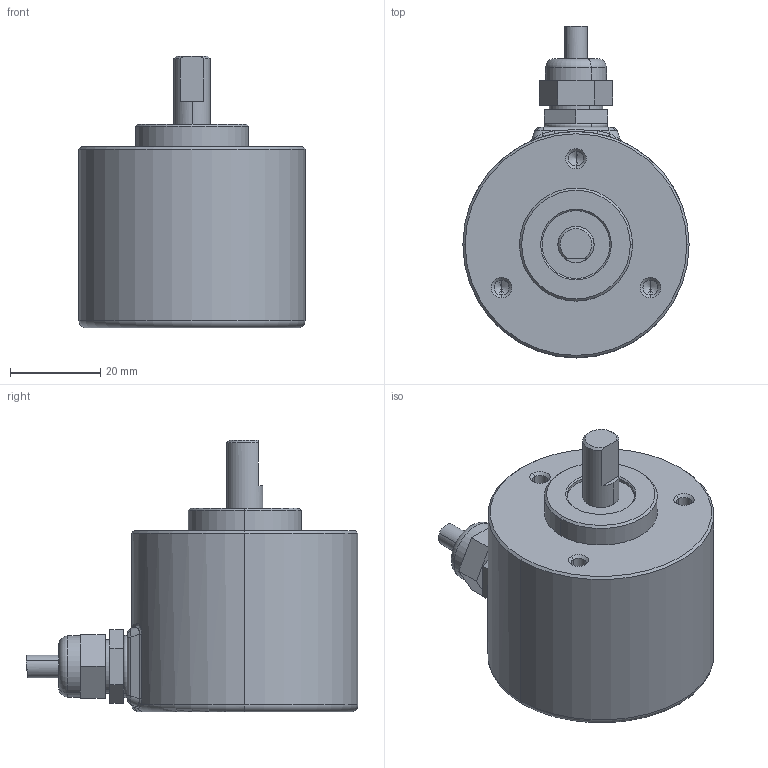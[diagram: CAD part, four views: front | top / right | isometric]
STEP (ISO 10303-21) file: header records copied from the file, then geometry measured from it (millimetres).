
FILE_DESCRIPTION (( 'STEP AP214' ), '1' );
FILE_NAME ('FD50扩展-φ8-外发^50款编码器整洁版归档.STEP', '2023-05-06T05:59:55', ( '' ), ( '' ), 'SwSTEP 2.0', 'SolidWorks 2016', '' );
FILE_SCHEMA (( 'AUTOMOTIVE_DESIGN' ));
Length unit declared in the file: millimetre
Products named in the file (1): FD50孺桯-耳8-俋楷^50遴晤鎢ん淕賞唳寥紫
Bounding box: 50 x 73.37 x 60 mm (x, y, z)
Volume: 83928 mm3; surface area: 13815.6 mm2
Topology: 3 solids, 3 shells, 190 faces, 434 edges, 261 vertices
Faces by surface type: plane 59, cylinder 51, bspline 41, cone 25, torus 14
Entity records: 6304 total; most frequent: CARTESIAN_POINT 2205, ORIENTED_EDGE 856, DIRECTION 800, EDGE_CURVE 428, AXIS2_PLACEMENT_3D 314, VERTEX_POINT 261, EDGE_LOOP 209, FACE_OUTER_BOUND 190
